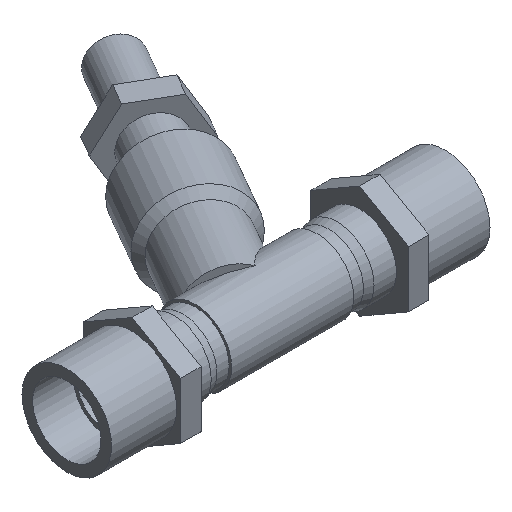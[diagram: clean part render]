
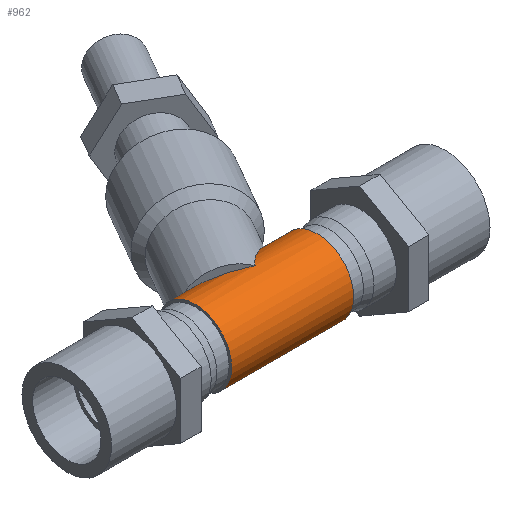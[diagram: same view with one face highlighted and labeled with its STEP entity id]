
A CAD part, isometric view. The second image highlights one B-rep face of the part: STEP entity #962.
In plain terms, the highlighted cylindrical face has radius 11.43 mm (diameter 22.86 mm), a full revolution.
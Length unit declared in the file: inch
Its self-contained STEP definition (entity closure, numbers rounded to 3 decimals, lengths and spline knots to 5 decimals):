
#48=ELLIPSE('',#1030,0.9,0.45);
#49=ELLIPSE('',#1032,0.9,0.45);
#50=B_SPLINE_CURVE_WITH_KNOTS('',3,(#1486,#1487,#1488,#1489,#1490,#1491,
#1492,#1493,#1494,#1495,#1496,#1497,#1498,#1499,#1500,#1501),
 .UNSPECIFIED.,.F.,.F.,(4,2,2,2,2,2,2,4),(0.1218,0.50062,
0.83932,1.17802,1.5082,1.83838,2.04897,
2.25956),.UNSPECIFIED.);
#51=B_SPLINE_CURVE_WITH_KNOTS('',3,(#1505,#1506,#1507,#1508,#1509,#1510,
#1511,#1512,#1513,#1514,#1515,#1516,#1517,#1518,#1519,#1520,#1521,#1522),
 .UNSPECIFIED.,.F.,.F.,(4,2,2,2,2,2,2,2,4),(2.67593,2.71137,
2.96536,3.16426,3.36316,3.56207,3.76097,
4.01496,4.05039),.UNSPECIFIED.);
#52=B_SPLINE_CURVE_WITH_KNOTS('',3,(#1525,#1526,#1527,#1528,#1529,#1530,
#1531,#1532,#1533,#1534,#1535,#1536,#1537,#1538,#1539,#1540),
 .UNSPECIFIED.,.F.,.F.,(4,2,2,2,2,2,2,4),(2.25956,2.47015,
2.68075,3.01093,3.34111,3.6798,4.0185,
4.39733),.UNSPECIFIED.);
#57=CYLINDRICAL_SURFACE('',#1055,0.45);
#72=FACE_BOUND('',#207,.T.);
#95=CIRCLE('',#1048,0.45);
#96=CIRCLE('',#1049,0.45);
#98=CIRCLE('',#1052,0.45);
#99=CIRCLE('',#1053,0.45);
#150=FACE_OUTER_BOUND('',#206,.T.);
#206=EDGE_LOOP('',(#689,#690,#691,#692,#693,#694));
#207=EDGE_LOOP('',(#695,#696,#697,#698,#699));
#270=LINE('',#1586,#341);
#341=VECTOR('',#1239,0.45);
#405=VERTEX_POINT('',#1483);
#406=VERTEX_POINT('',#1485);
#407=VERTEX_POINT('',#1502);
#408=VERTEX_POINT('',#1504);
#409=VERTEX_POINT('',#1523);
#418=VERTEX_POINT('',#1572);
#419=VERTEX_POINT('',#1573);
#421=VERTEX_POINT('',#1579);
#422=VERTEX_POINT('',#1580);
#501=EDGE_CURVE('',#406,#405,#50,.T.);
#503=EDGE_CURVE('',#408,#407,#51,.T.);
#505=EDGE_CURVE('',#405,#409,#52,.T.);
#506=EDGE_CURVE('',#407,#406,#48,.T.);
#507=EDGE_CURVE('',#409,#408,#49,.T.);
#520=EDGE_CURVE('',#418,#419,#95,.T.);
#521=EDGE_CURVE('',#419,#418,#96,.T.);
#523=EDGE_CURVE('',#421,#422,#98,.T.);
#524=EDGE_CURVE('',#422,#421,#99,.T.);
#526=EDGE_CURVE('',#419,#422,#270,.T.);
#689=ORIENTED_EDGE('',*,*,#520,.F.);
#690=ORIENTED_EDGE('',*,*,#521,.F.);
#691=ORIENTED_EDGE('',*,*,#526,.T.);
#692=ORIENTED_EDGE('',*,*,#524,.T.);
#693=ORIENTED_EDGE('',*,*,#523,.T.);
#694=ORIENTED_EDGE('',*,*,#526,.F.);
#695=ORIENTED_EDGE('',*,*,#506,.T.);
#696=ORIENTED_EDGE('',*,*,#501,.T.);
#697=ORIENTED_EDGE('',*,*,#505,.T.);
#698=ORIENTED_EDGE('',*,*,#507,.T.);
#699=ORIENTED_EDGE('',*,*,#503,.T.);
#962=ADVANCED_FACE('',(#150,#72),#57,.T.);
#1030=AXIS2_PLACEMENT_3D('',#1542,#1183,#1184);
#1032=AXIS2_PLACEMENT_3D('',#1544,#1187,#1188);
#1048=AXIS2_PLACEMENT_3D('',#1574,#1223,#1224);
#1049=AXIS2_PLACEMENT_3D('',#1575,#1225,#1226);
#1052=AXIS2_PLACEMENT_3D('',#1581,#1231,#1232);
#1053=AXIS2_PLACEMENT_3D('',#1582,#1233,#1234);
#1055=AXIS2_PLACEMENT_3D('',#1585,#1237,#1238);
#1183=DIRECTION('center_axis',(-0.5,-0.866,0.));
#1184=DIRECTION('ref_axis',(-0.866,0.5,0.));
#1187=DIRECTION('center_axis',(-0.5,-0.866,0.));
#1188=DIRECTION('ref_axis',(-0.866,0.5,0.));
#1223=DIRECTION('center_axis',(1.,0.,0.));
#1224=DIRECTION('ref_axis',(0.,0.,-1.));
#1225=DIRECTION('center_axis',(1.,0.,0.));
#1226=DIRECTION('ref_axis',(0.,0.,-1.));
#1231=DIRECTION('center_axis',(1.,0.,0.));
#1232=DIRECTION('ref_axis',(0.,0.,-1.));
#1233=DIRECTION('center_axis',(1.,0.,0.));
#1234=DIRECTION('ref_axis',(0.,0.,-1.));
#1237=DIRECTION('center_axis',(1.,0.,0.));
#1238=DIRECTION('ref_axis',(0.,1.,0.));
#1239=DIRECTION('',(-1.,0.,0.));
#1483=CARTESIAN_POINT('',(0.58716,0.45,0.));
#1485=CARTESIAN_POINT('',(0.02951,0.0407,-0.44816));
#1486=CARTESIAN_POINT('Ctrl Pts',(0.02951,0.0407,-0.44816));
#1487=CARTESIAN_POINT('Ctrl Pts',(0.06199,0.08185,
-0.44442));
#1488=CARTESIAN_POINT('Ctrl Pts',(0.10427,0.11928,-0.43511));
#1489=CARTESIAN_POINT('Ctrl Pts',(0.17563,0.17722,-0.41465));
#1490=CARTESIAN_POINT('Ctrl Pts',(0.21347,0.20519,-0.40169));
#1491=CARTESIAN_POINT('Ctrl Pts',(0.28868,0.25821,-0.36985));
#1492=CARTESIAN_POINT('Ctrl Pts',(0.326,0.28328,-0.35091));
#1493=CARTESIAN_POINT('Ctrl Pts',(0.39135,0.32636,-0.31117));
#1494=CARTESIAN_POINT('Ctrl Pts',(0.42571,0.34852,-0.2868));
#1495=CARTESIAN_POINT('Ctrl Pts',(0.48867,0.38858,-0.22961));
#1496=CARTESIAN_POINT('Ctrl Pts',(0.51719,0.40647,-0.1967));
#1497=CARTESIAN_POINT('Ctrl Pts',(0.5526,0.42857,-0.1393));
#1498=CARTESIAN_POINT('Ctrl Pts',(0.56538,0.43651,-0.113));
#1499=CARTESIAN_POINT('Ctrl Pts',(0.58271,0.44725,-0.05719));
#1500=CARTESIAN_POINT('Ctrl Pts',(0.58716,0.45,-0.02764));
#1501=CARTESIAN_POINT('Ctrl Pts',(0.58716,0.45,0.));
#1502=CARTESIAN_POINT('',(-0.52951,0.36345,-0.26534));
#1504=CARTESIAN_POINT('',(-0.52951,0.36345,0.26534));
#1505=CARTESIAN_POINT('Ctrl Pts',(-0.52951,0.36345,
0.26534));
#1506=CARTESIAN_POINT('Ctrl Pts',(-0.5307,0.36634,
0.26138));
#1507=CARTESIAN_POINT('Ctrl Pts',(-0.53188,0.36917,
0.25736));
#1508=CARTESIAN_POINT('Ctrl Pts',(-0.54136,0.39179,
0.22416));
#1509=CARTESIAN_POINT('Ctrl Pts',(-0.54859,0.40814,
0.19236));
#1510=CARTESIAN_POINT('Ctrl Pts',(-0.55802,0.42922,
0.1376));
#1511=CARTESIAN_POINT('Ctrl Pts',(-0.56165,0.43718,
0.11034));
#1512=CARTESIAN_POINT('Ctrl Pts',(-0.56642,0.44758,0.05459));
#1513=CARTESIAN_POINT('Ctrl Pts',(-0.56754,0.45,0.0261));
#1514=CARTESIAN_POINT('Ctrl Pts',(-0.56754,0.45,-0.0261));
#1515=CARTESIAN_POINT('Ctrl Pts',(-0.56642,0.44758,-0.05459));
#1516=CARTESIAN_POINT('Ctrl Pts',(-0.56165,0.43718,
-0.11034));
#1517=CARTESIAN_POINT('Ctrl Pts',(-0.55802,0.42922,
-0.1376));
#1518=CARTESIAN_POINT('Ctrl Pts',(-0.54859,0.40814,
-0.19236));
#1519=CARTESIAN_POINT('Ctrl Pts',(-0.54136,0.39179,
-0.22416));
#1520=CARTESIAN_POINT('Ctrl Pts',(-0.53188,0.36917,
-0.25736));
#1521=CARTESIAN_POINT('Ctrl Pts',(-0.5307,0.36634,
-0.26138));
#1522=CARTESIAN_POINT('Ctrl Pts',(-0.52951,0.36345,
-0.26534));
#1523=CARTESIAN_POINT('',(0.02951,0.0407,0.44816));
#1525=CARTESIAN_POINT('Ctrl Pts',(0.58716,0.45,0.));
#1526=CARTESIAN_POINT('Ctrl Pts',(0.58716,0.45,0.02764));
#1527=CARTESIAN_POINT('Ctrl Pts',(0.58271,0.44725,0.05719));
#1528=CARTESIAN_POINT('Ctrl Pts',(0.56538,0.43651,0.113));
#1529=CARTESIAN_POINT('Ctrl Pts',(0.5526,0.42857,0.1393));
#1530=CARTESIAN_POINT('Ctrl Pts',(0.51719,0.40647,0.1967));
#1531=CARTESIAN_POINT('Ctrl Pts',(0.48867,0.38858,0.22961));
#1532=CARTESIAN_POINT('Ctrl Pts',(0.42571,0.34852,0.2868));
#1533=CARTESIAN_POINT('Ctrl Pts',(0.39135,0.32636,0.31117));
#1534=CARTESIAN_POINT('Ctrl Pts',(0.326,0.28328,0.35091));
#1535=CARTESIAN_POINT('Ctrl Pts',(0.28868,0.25821,0.36985));
#1536=CARTESIAN_POINT('Ctrl Pts',(0.21347,0.20519,0.40169));
#1537=CARTESIAN_POINT('Ctrl Pts',(0.17563,0.17722,0.41465));
#1538=CARTESIAN_POINT('Ctrl Pts',(0.10427,0.11928,0.43511));
#1539=CARTESIAN_POINT('Ctrl Pts',(0.06199,0.08185,
0.44442));
#1540=CARTESIAN_POINT('Ctrl Pts',(0.02951,0.0407,0.44816));
#1542=CARTESIAN_POINT('Origin',(0.1,0.,
0.));
#1544=CARTESIAN_POINT('Origin',(0.1,0.,
0.));
#1572=CARTESIAN_POINT('',(0.75,0.45,0.));
#1573=CARTESIAN_POINT('',(0.75,-0.45,0.));
#1574=CARTESIAN_POINT('Origin',(0.75,0.,0.));
#1575=CARTESIAN_POINT('Origin',(0.75,0.,0.));
#1579=CARTESIAN_POINT('',(-0.75,0.45,0.));
#1580=CARTESIAN_POINT('',(-0.75,-0.45,0.));
#1581=CARTESIAN_POINT('Origin',(-0.75,0.,0.));
#1582=CARTESIAN_POINT('Origin',(-0.75,0.,0.));
#1585=CARTESIAN_POINT('Origin',(0.,0.,0.));
#1586=CARTESIAN_POINT('',(0.,-0.45,0.));
